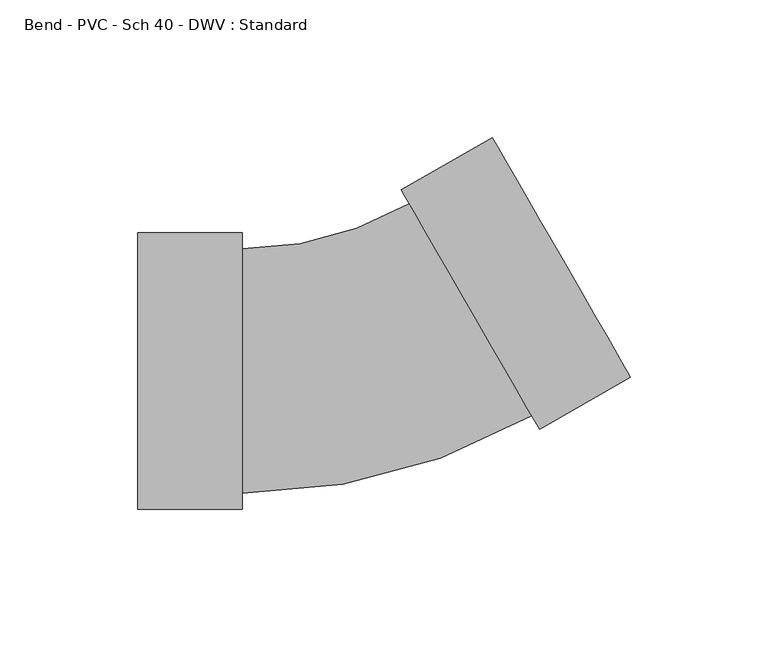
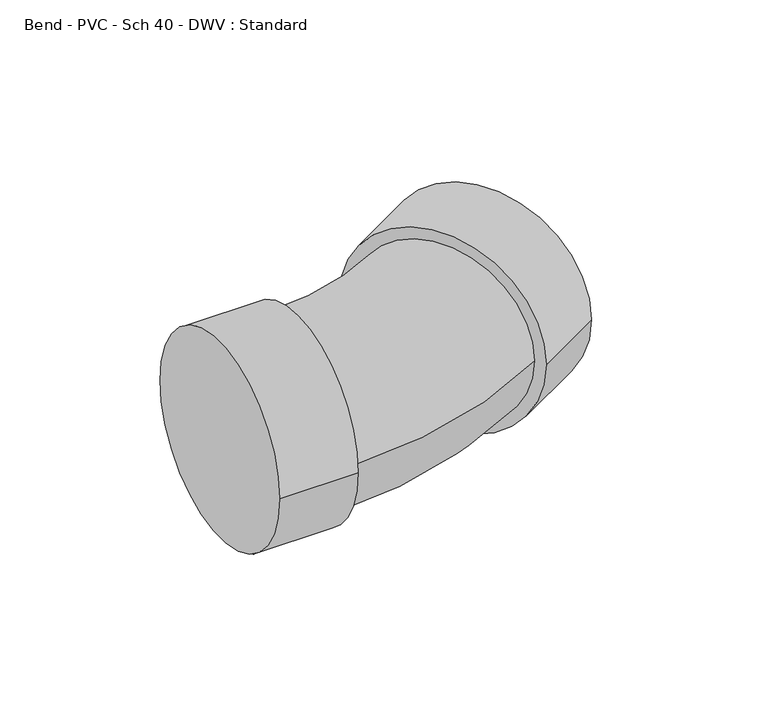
"""IFC4 building model written with IfcOpenShell, lengths in millimetres: pipe fitting geometry, Bend - PVC - Sch 40 - DWV : Standard."""

from ifc_helpers import new_model, si_unit, point, frame, origin, place, context, project, spatial, circle_curve, ellipse_curve, trimmed, source, transform, mapped, element, save
from ifc_brep_helpers import plane_surface, cylinder_surface, revolved_surface, advanced_brep


def bend_pvc_sch_40_dwv_standard_5ba2ab1b(model_context):
    return source(origin(), model_context, "Body", "AdvancedBrep", [
        advanced_brep(
        [(-82.55, -50.2666, 0.0), (-82.55, 50.2666, 0.0), (-44.45, -50.2666, 0.0), (-44.45, 50.2666, 0.0), (-44.45, -44.45, 0.0), (-44.45, 44.45, 0.0), (16.2694677, 60.7199261, 0.0), (60.7199261, -16.2694677, 0.0), (63.6282561, -21.3067737, 0.0), (13.3611377, 65.7572321, 0.0), (96.6237105, -2.2565773, 0.0), (46.3565922, 84.8074286, 0.0)],
        [
            (0, 1, circle_curve(frame((-82.55, 0.0, 0.0), z_axis=(-1.0, 0.0, 0.0), x_axis=(0.0, 1.0, 0.0)), 50.2666)),
            (1, 0, circle_curve(frame((-82.55, 0.0, 0.0), z_axis=(-1.0, 0.0, 0.0), x_axis=(0.0, 1.0, 0.0)), 50.2666)),
            (2, 3, circle_curve(frame((-44.45, 0.0, 0.0), z_axis=(1.0, 0.0, 0.0), x_axis=(0.0, 1.0, 0.0)), 50.2666)),
            (3, 2, circle_curve(frame((-44.45, 0.0, 0.0), z_axis=(1.0, 0.0, 0.0), x_axis=(0.0, 1.0, 0.0)), 50.2666)),
            (4, 5, circle_curve(frame((-44.45, 0.0, 0.0), z_axis=(-1.0, 0.0, 0.0), x_axis=(0.0, 1.0, 0.0)), 44.45)),
            (5, 4, circle_curve(frame((-44.45, 0.0, 0.0), z_axis=(-1.0, 0.0, 0.0), x_axis=(0.0, 1.0, 0.0)), 44.45)),
            (0, 2),
            (3, 1),
            (6, 5, circle_curve(frame((-44.45, 165.8876831, 0.0), z_axis=(0.0, 0.0, -1.0), x_axis=(0.0, -1.0, 0.0)), 121.4376831)),
            (4, 7, circle_curve(frame((-44.45, 165.8876831, 0.0), z_axis=(0.0, 0.0, 1.0), x_axis=(0.0, -1.0, 0.0)), 210.3376831)),
            (7, 6, circle_curve(frame((38.4946969, 22.2252292, 0.0), z_axis=(-0.8660224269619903, -0.5000051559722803, 0.0), x_axis=(-0.5000051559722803, 0.8660224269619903, 0.0)), 44.45)),
            (6, 7, circle_curve(frame((38.4946969, 22.2252292, 0.0), z_axis=(-0.8660224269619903, -0.5000051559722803, 0.0), x_axis=(-0.5000051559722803, 0.8660224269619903, 0.0)), 44.45)),
            (8, 9, circle_curve(frame((38.4946969, 22.2252292, 0.0), z_axis=(-0.8660224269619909, -0.500005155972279, 0.0), x_axis=(-0.500005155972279, 0.8660224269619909, 0.0)), 50.2666)),
            (9, 8, circle_curve(frame((38.4946969, 22.2252292, 0.0), z_axis=(-0.8660224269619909, -0.500005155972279, 0.0), x_axis=(-0.500005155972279, 0.8660224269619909, 0.0)), 50.2666)),
            (10, 11, circle_curve(frame((71.4901513, 41.2754256, 0.0), z_axis=(0.8660224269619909, 0.500005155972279, 0.0), x_axis=(-0.500005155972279, 0.8660224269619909, 0.0)), 50.2666)),
            (11, 10, circle_curve(frame((71.4901513, 41.2754256, 0.0), z_axis=(0.8660224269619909, 0.500005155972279, 0.0), x_axis=(-0.500005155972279, 0.8660224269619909, 0.0)), 50.2666)),
            (8, 10),
            (11, 9),
        ],
        [
            plane_surface(frame((-82.55, 0.0, 0.0), z_axis=(-1.0, 0.0, 0.0), x_axis=(0.0, 0.0, 1.0))),
            plane_surface(frame((-44.45, 0.0, 0.0), z_axis=(1.0, 0.0, 0.0), x_axis=(0.0, 0.0, 1.0))),
            cylinder_surface(frame((-82.55, 0.0, 0.0), z_axis=(-1.0, 0.0, 0.0), x_axis=(0.0, 1.0, 0.0)), 50.2666),
            revolved_surface(trimmed(ellipse_curve(frame((-44.45, 0.0, 0.0), z_axis=(-1.0, 0.0, 0.0), x_axis=(0.0, 1.0, 0.0)), 44.45, 44.45), [point((-44.45, -44.45, 0.0))], [point((-44.45, 44.45, 0.0))], True, "CARTESIAN"), (-44.45, 165.8876831, 0.0), (0.0, 0.0, 1.0)),
            revolved_surface(trimmed(ellipse_curve(frame((-44.45, 0.0, 0.0), z_axis=(-1.0, 0.0, 0.0), x_axis=(0.0, 1.0, 0.0)), 44.45, 44.45), [point((-44.45, 44.45, 0.0))], [point((-44.45, -44.45, 0.0))], True, "CARTESIAN"), (-44.45, 165.8876831, 0.0), (0.0, 0.0, 1.0)),
            plane_surface(frame((38.4946969, 22.2252292, 0.0), z_axis=(-0.8660224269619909, -0.500005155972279, 0.0), x_axis=(0.0, 0.0, 1.0))),
            plane_surface(frame((71.4901513, 41.2754256, 0.0), z_axis=(0.8660224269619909, 0.500005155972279, 0.0), x_axis=(0.0, 0.0, 1.0))),
            cylinder_surface(frame((38.4946969, 22.2252292, 0.0), z_axis=(-0.8660224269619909, -0.500005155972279, 0.0), x_axis=(-0.500005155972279, 0.8660224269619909, 0.0)), 50.2666),
        ],
        [
            (0, [[1, 2]]),
            (1, [[3, 4], [5, 6]]),
            (2, [[-1, 7, -4, 8]]),
            (2, [[-2, -8, -3, -7]]),
            (3, [[9, -5, 10, 11]]),
            (4, [[-9, 12, -10, -6]]),
            (5, [[13, 14], [-11, -12]]),
            (6, [[15, 16]]),
            (7, [[-13, 17, -16, 18]]),
            (7, [[-14, -18, -15, -17]]),
        ],
    ),
    ])


if __name__ == "__main__":
    model = new_model("IFC4")
    model_context = context("Model", 3, world=origin())
    ifc_project = project(units=[si_unit("LENGTHUNIT", "METRE", prefix="MILLI")], contexts=[model_context])
    site = spatial("IfcSite", under=ifc_project)
    building = spatial("IfcBuilding", under=site)
    placement = place(None, origin())
    bend_pvc_sch_40_dwv_standard_shape = bend_pvc_sch_40_dwv_standard_5ba2ab1b(model_context)
    element("IfcPipeFitting", 1, ObjectType="Bend - PVC - Sch 40 - DWV : Standard", at=placement, inside=building, context=model_context, shape_type="MappedRepresentation", body=[
        mapped(bend_pvc_sch_40_dwv_standard_shape, transform((0.0, 0.0, 0.0), x_axis=(1.0, 0.0, 0.0), y_axis=(0.0, 1.0, 0.0), z_axis=(0.0, 0.0, 1.0))),
    ])
    save(model, "model.ifc")
